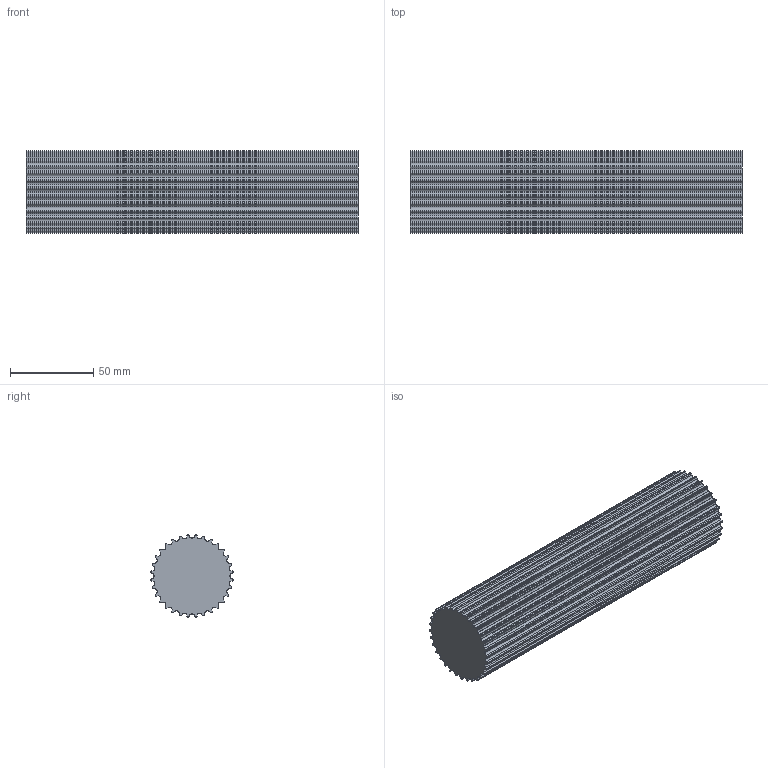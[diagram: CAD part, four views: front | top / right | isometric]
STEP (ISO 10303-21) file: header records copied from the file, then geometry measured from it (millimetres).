
FILE_DESCRIPTION( ( 'STEP AP214' ), '1' );
FILE_NAME( 'C:/Users/StangenbergN/Desktop/Steps Zahnriemenräder/K166_HTD-Zahnwellen/17293200.stp', '2019-06-06T09:41:49', ( '' ), ( '' ), ' ', 'PARTsolutions', ' ' );
FILE_SCHEMA( ( 'AUTOMOTIVE_DESIGN { 1 0 10303 214 1 1 1 1 }' ) );
Length unit declared in the file: millimetre
Products named in the file (1): _17293200
Bounding box: 200 x 49.58 x 49.58 mm (x, y, z)
Volume: 352601.4 mm3; surface area: 47024.6 mm2
Topology: 1 solids, 1 shells, 258 faces, 768 edges, 512 vertices
Faces by surface type: cylinder 160, plane 98
Entity records: 10872 total; most frequent: DIRECTION 1606, CARTESIAN_POINT 1539, ORIENTED_EDGE 1536, EDGE_CURVE 768, AXIS2_PLACEMENT_3D 579, VERTEX_POINT 512, LINE 448, VECTOR 448
